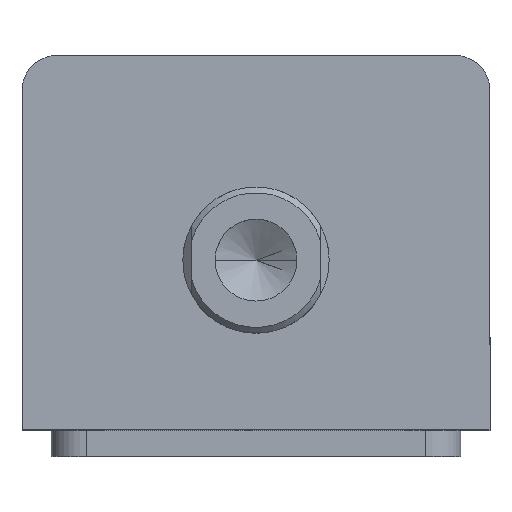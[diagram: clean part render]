
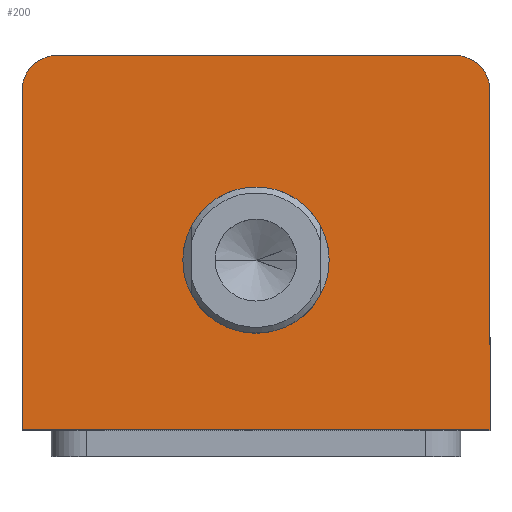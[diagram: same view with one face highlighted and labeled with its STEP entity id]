
A CAD part, top view. The second image highlights one B-rep face of the part: STEP entity #200.
In plain terms, the highlighted planar face has unit normal (0, 0, 1).
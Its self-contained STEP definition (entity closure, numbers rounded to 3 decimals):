
#200 = ADVANCED_FACE ( 'NONE', ( #304, #315 ), #2989, .T. ) ;
#304 = FACE_BOUND ( 'NONE', #1551, .T. ) ;
#315 = FACE_OUTER_BOUND ( 'NONE', #1590, .T. ) ;
#505 = LINE ( 'NONE', #3425, #513 ) ;
#513 = VECTOR ( 'NONE', #3410, 1000. ) ;
#520 = CIRCLE ( 'NONE', #2308, 6. ) ;
#531 = CIRCLE ( 'NONE', #2315, 6. ) ;
#538 = LINE ( 'NONE', #3307, #543 ) ;
#543 = VECTOR ( 'NONE', #3304, 1000. ) ;
#566 = CIRCLE ( 'NONE', #2317, 12.5 ) ;
#780 = LINE ( 'NONE', #3091, #783 ) ;
#783 = VECTOR ( 'NONE', #3090, 1000. ) ;
#810 = LINE ( 'NONE', #2614, #812 ) ;
#812 = VECTOR ( 'NONE', #2609, 1000. ) ;
#852 = CIRCLE ( 'NONE', #2402, 12.5 ) ;
#1046 = DIRECTION ( 'NONE',  ( 0., 0., 1. ) ) ;
#1054 = DIRECTION ( 'NONE',  ( 1., 0., 0. ) ) ;
#1055 = CARTESIAN_POINT ( 'NONE',  ( 0., -3., 75. ) ) ;
#1377 = ORIENTED_EDGE ( 'NONE', *, *, #1957, .T. ) ;
#1378 = ORIENTED_EDGE ( 'NONE', *, *, #1949, .T. ) ;
#1379 = ORIENTED_EDGE ( 'NONE', *, *, #2150, .T. ) ;
#1380 = ORIENTED_EDGE ( 'NONE', *, *, #1970, .T. ) ;
#1381 = ORIENTED_EDGE ( 'NONE', *, *, #1966, .T. ) ;
#1382 = ORIENTED_EDGE ( 'NONE', *, *, #2133, .T. ) ;
#1383 = ORIENTED_EDGE ( 'NONE', *, *, #2178, .F. ) ;
#1384 = ORIENTED_EDGE ( 'NONE', *, *, #1983, .F. ) ;
#1414 = VERTEX_POINT ( 'NONE', #3461 ) ;
#1416 = VERTEX_POINT ( 'NONE', #3458 ) ;
#1424 = VERTEX_POINT ( 'NONE', #3447 ) ;
#1442 = VERTEX_POINT ( 'NONE', #3420 ) ;
#1495 = VERTEX_POINT ( 'NONE', #3295 ) ;
#1526 = VERTEX_POINT ( 'NONE', #3536 ) ;
#1527 = VERTEX_POINT ( 'NONE', #3535 ) ;
#1532 = VERTEX_POINT ( 'NONE', #3528 ) ;
#1551 = EDGE_LOOP ( 'NONE', ( #1384, #1383 ) ) ;
#1590 = EDGE_LOOP ( 'NONE', ( #1382, #1381, #1380, #1379, #1378, #1377 ) ) ;
#1949 = EDGE_CURVE ( 'NONE', #1424, #1527, #505, .T. ) ;
#1957 = EDGE_CURVE ( 'NONE', #1527, #1526, #520, .T. ) ;
#1966 = EDGE_CURVE ( 'NONE', #1532, #1495, #531, .T. ) ;
#1970 = EDGE_CURVE ( 'NONE', #1495, #1442, #538, .T. ) ;
#1983 = EDGE_CURVE ( 'NONE', #1414, #1416, #566, .T. ) ;
#2133 = EDGE_CURVE ( 'NONE', #1526, #1532, #780, .T. ) ;
#2150 = EDGE_CURVE ( 'NONE', #1442, #1424, #810, .T. ) ;
#2178 = EDGE_CURVE ( 'NONE', #1416, #1414, #852, .T. ) ;
#2210 = AXIS2_PLACEMENT_3D ( 'NONE', #2987, #2983, #2982 ) ;
#2308 = AXIS2_PLACEMENT_3D ( 'NONE', #3358, #3357, #3355 ) ;
#2315 = AXIS2_PLACEMENT_3D ( 'NONE', #3322, #3321, #3319 ) ;
#2317 = AXIS2_PLACEMENT_3D ( 'NONE', #1055, #1046, #1054 ) ;
#2402 = AXIS2_PLACEMENT_3D ( 'NONE', #2552, #2551, #2549 ) ;
#2549 = DIRECTION ( 'NONE',  ( 1., 0., 0. ) ) ;
#2551 = DIRECTION ( 'NONE',  ( 0., 0., 1. ) ) ;
#2552 = CARTESIAN_POINT ( 'NONE',  ( 0., -3., 75. ) ) ;
#2609 = DIRECTION ( 'NONE',  ( 1., 0., 0. ) ) ;
#2614 = CARTESIAN_POINT ( 'NONE',  ( -40., -32., 75. ) ) ;
#2982 = DIRECTION ( 'NONE',  ( 1., 0., 0. ) ) ;
#2983 = DIRECTION ( 'NONE',  ( 0., 0., 1. ) ) ;
#2987 = CARTESIAN_POINT ( 'NONE',  ( 0., 0., 75. ) ) ;
#2989 = PLANE ( 'NONE',  #2210 ) ;
#3090 = DIRECTION ( 'NONE',  ( -1., 0., 0. ) ) ;
#3091 = CARTESIAN_POINT ( 'NONE',  ( -40., 32., 75. ) ) ;
#3295 = CARTESIAN_POINT ( 'NONE',  ( -40., 26., 75. ) ) ;
#3304 = DIRECTION ( 'NONE',  ( 0., -1., 0. ) ) ;
#3307 = CARTESIAN_POINT ( 'NONE',  ( -40., 32., 75. ) ) ;
#3319 = DIRECTION ( 'NONE',  ( 1., 0., 0. ) ) ;
#3321 = DIRECTION ( 'NONE',  ( 0., 0., 1. ) ) ;
#3322 = CARTESIAN_POINT ( 'NONE',  ( -34., 26., 75. ) ) ;
#3355 = DIRECTION ( 'NONE',  ( 1., 0., 0. ) ) ;
#3357 = DIRECTION ( 'NONE',  ( 0., 0., 1. ) ) ;
#3358 = CARTESIAN_POINT ( 'NONE',  ( 34., 26., 75. ) ) ;
#3410 = DIRECTION ( 'NONE',  ( 0., 1., 0. ) ) ;
#3420 = CARTESIAN_POINT ( 'NONE',  ( -40., -32., 75. ) ) ;
#3425 = CARTESIAN_POINT ( 'NONE',  ( 40., 32., 75. ) ) ;
#3447 = CARTESIAN_POINT ( 'NONE',  ( 40., -32., 75. ) ) ;
#3458 = CARTESIAN_POINT ( 'NONE',  ( -12.5, -3., 75. ) ) ;
#3461 = CARTESIAN_POINT ( 'NONE',  ( 12.5, -3., 75. ) ) ;
#3528 = CARTESIAN_POINT ( 'NONE',  ( -34., 32., 75. ) ) ;
#3535 = CARTESIAN_POINT ( 'NONE',  ( 40., 26., 75. ) ) ;
#3536 = CARTESIAN_POINT ( 'NONE',  ( 34., 32., 75. ) ) ;
